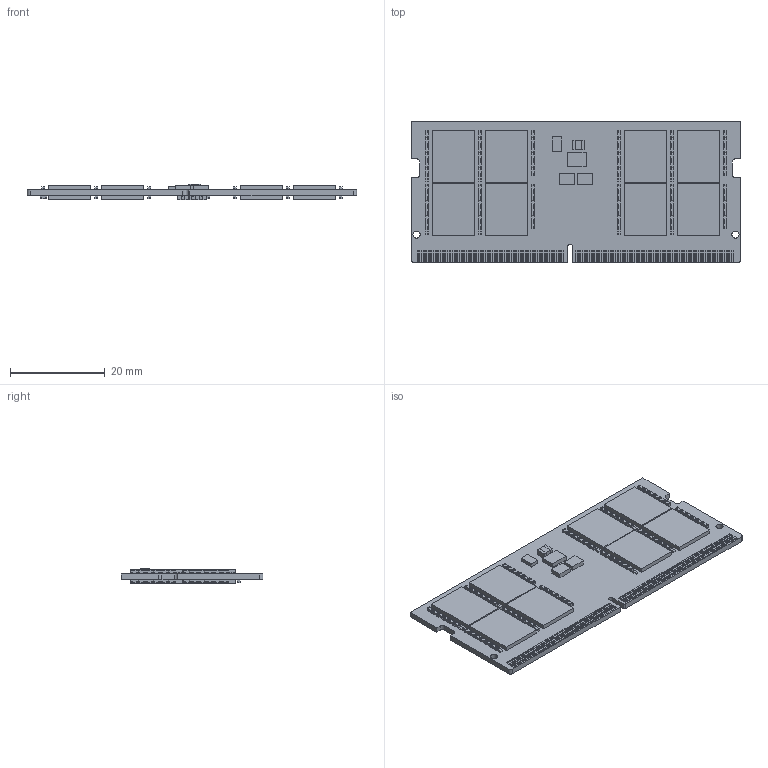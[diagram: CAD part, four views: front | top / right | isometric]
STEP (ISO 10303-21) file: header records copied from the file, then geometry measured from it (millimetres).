
FILE_DESCRIPTION((''),'2;1');
FILE_NAME('03_PCB_SODIMM_DDR5_M5SV-BGM2OC0_ASM','2021-12-21T13:10:58',('weichi_lo'),(''),'CREO PARAMETRIC BY PTC INC, 2020053','CREO PARAMETRIC BY PTC INC, 2020053','');
FILE_SCHEMA(('AUTOMOTIVE_DESIGN { 1 0 10303 214 1 1 1 1 }'));
Products named in the file (16): PCB_SODIMM_DDR5_SKETCH; 03_PCB_SODIMM_DDR5_M5SV-AGM2NC0; PAD_TOP_SODIMM_DDR5; PAD_BOT_SODIMM_DDR5; DDR5-4800-5D5AGMF8CTMA0; 9U1SP5118010; 9U6P8911X010; 9L1U684S0010_INDUCTOR_GOTREND; 9L11U54S0010; EE_0402_9CM402U2-Z11; EE_0402_9CM402U2-Z11_ASM; EE_R0402_9R4XXXXXX-0402; EE_R0402_9R4XXXXXX-0402_ASM; EE_C0603_; EE_C0603_ASM_ASM; 03_PCB_SODIMM_DDR5_M5SV-BGM2OC0_ASM
Assembly tree (208 placements, depth 3):
  03_PCB_SODIMM_DDR5_M5SV-BGM2OC0_ASM
    PCB_SODIMM_DDR5_SKETCH
    03_PCB_SODIMM_DDR5_M5SV-AGM2NC0
    PAD_TOP_SODIMM_DDR5
    PAD_BOT_SODIMM_DDR5
    DDR5-4800-5D5AGMF8CTMA0  x16
    9U1SP5118010
    9U6P8911X010
    9L1U684S0010_INDUCTOR_GOTREND  x2
    9L11U54S0010
    EE_0402_9CM402U2-Z11_ASM  x148
      EE_0402_9CM402U2-Z11
    EE_R0402_9R4XXXXXX-0402_ASM  x19
      EE_R0402_9R4XXXXXX-0402
    EE_C0603_ASM_ASM  x13
      EE_C0603_
Bounding box: 69.6 x 30 x 3.3 mm (x, y, z)
Volume: 4054.6 mm3; surface area: 9535.2 mm2
Topology: 460 solids, 460 shells, 10632 faces, 21333 edges, 11672 vertices
Faces by surface type: plane 4335, cylinder 3825, sphere 2472
Entity records: 80113 total; most frequent: CARTESIAN_POINT 9071, DIRECTION 8632, ORIENTED_EDGE 7004, PRESENTATION_STYLE_ASSIGNMENT 6293, STYLED_ITEM 6285, VECTOR 4436, LINE 4436, CURVE_STYLE 4387
